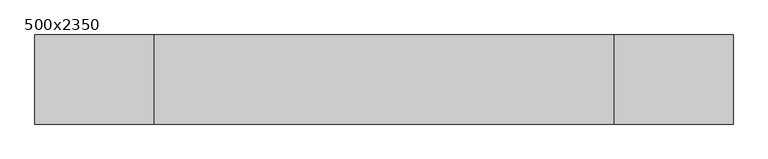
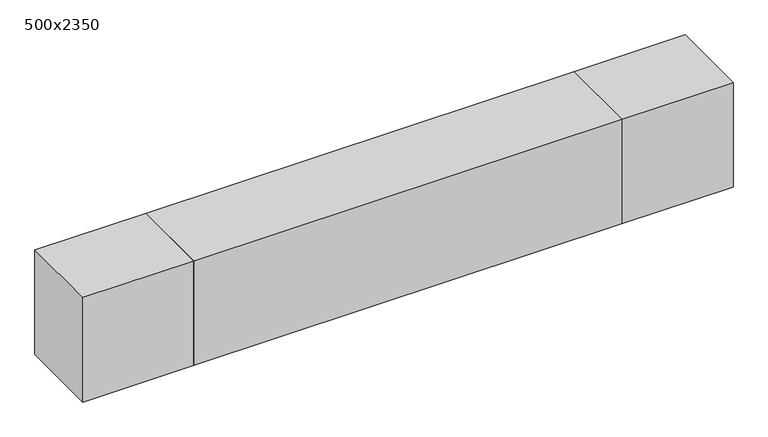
"""IFC4 building model written with IfcOpenShell, lengths in millimetres: furniture geometry, Fu_TV+тумба_LEG : 500x2350."""

from ifc_helpers import new_model, si_unit, origin, origin_with_axes, place, context, project, spatial, polyline, outline, extrude, source, transform, mapped, element, save


def furniture_500x2350_ecc61c4f(model_context):
    return source(origin(), model_context, "Body", "SweptSolid", [
        extrude(outline(polyline([(948.401892, -916.7770492), (548.401892, -916.7770492), (548.401892, -616.7770492), (948.401892, -616.7770492), (948.401892, -916.7770492)])), origin_with_axes(), (0.0, 0.0, 1.0), 400.0),
        extrude(outline(polyline([(-1001.598108, -916.7770492), (-1401.598108, -916.7770492), (-1401.598108, -616.7770492), (-1001.598108, -616.7770492), (-1001.598108, -916.7770492)])), origin_with_axes(), (0.0, 0.0, 1.0), 400.0),
        extrude(outline(polyline([(548.345649, -916.7770492), (-1001.598108, -916.7770492), (-1001.598108, -616.7770492), (548.345649, -616.7770492), (548.345649, -916.7770492)])), origin_with_axes(), (0.0, 0.0, 1.0), 400.0),
    ])


if __name__ == "__main__":
    model = new_model("IFC4")
    model_context = context("Model", 3, world=origin())
    ifc_project = project(units=[si_unit("LENGTHUNIT", "METRE", prefix="MILLI")], contexts=[model_context])
    site = spatial("IfcSite", under=ifc_project)
    building = spatial("IfcBuilding", under=site)
    placement = place(None, origin())
    furniture_500x2350_shape = furniture_500x2350_ecc61c4f(model_context)
    element("IfcFurniture", 1, ObjectType="Fu_TV+тумба_LEG : 500x2350", at=placement, inside=building, context=model_context, shape_type="MappedRepresentation", body=[
        mapped(furniture_500x2350_shape, transform((0.0, 0.0, 0.0), x_axis=(1.0, 0.0, 0.0), y_axis=(0.0, 1.0, 0.0), z_axis=(0.0, 0.0, 1.0))),
    ])
    save(model, "model.ifc")
